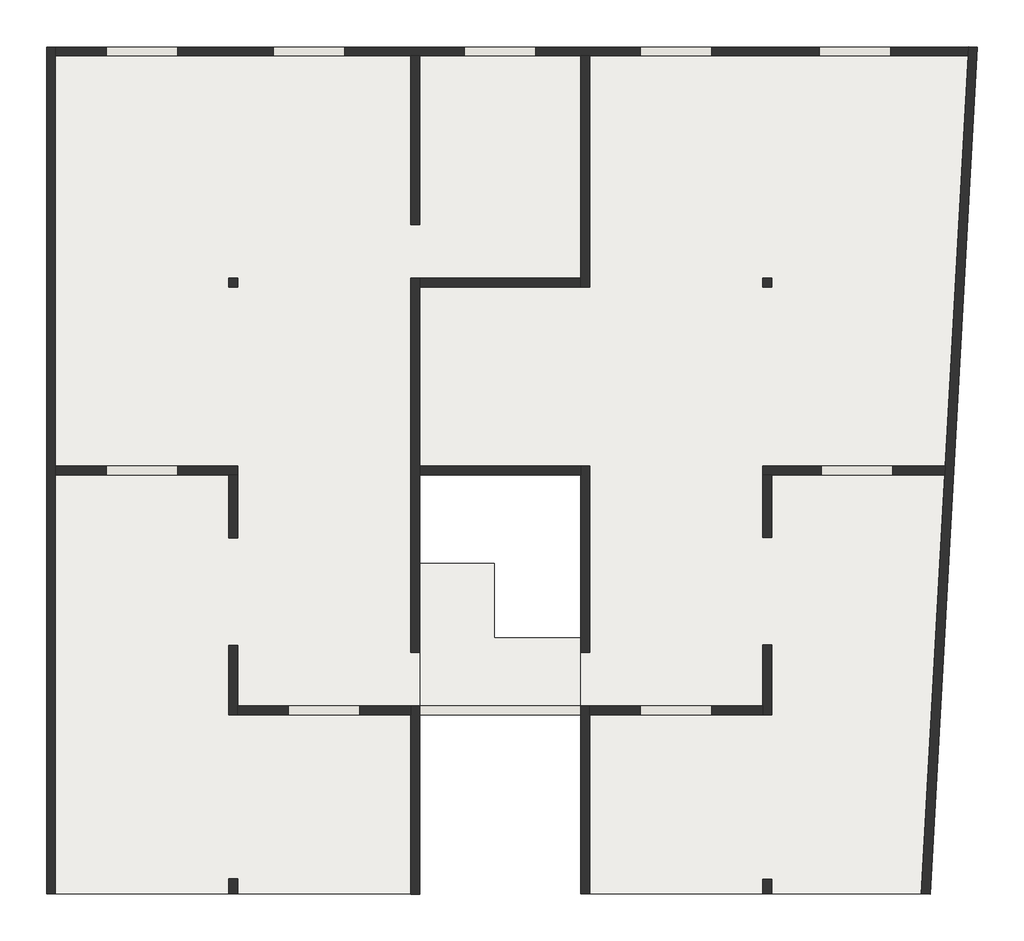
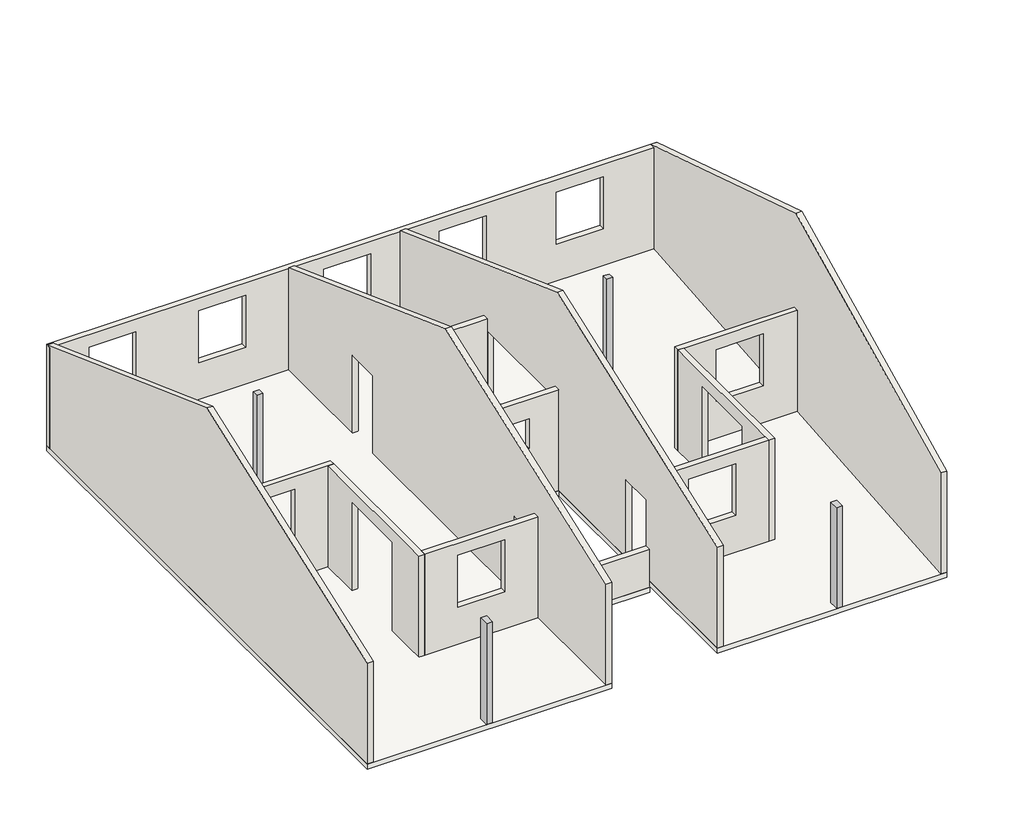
# One storey: 14 walls, 4 columns, 2 slabs.
"""IFC4 building model written with IfcOpenShell, lengths in millimetres."""

from ifc_helpers import new_model, si_unit, frame, origin, place, context, project, spatial, polyline, outline, extrude, faceted_brep, element, save

model = new_model("IFC4")

# Units and contexts
model_context = context("Model", 3, world=origin())
ifc_project = project(units=[si_unit("LENGTHUNIT", "METRE", prefix="MILLI")], contexts=[model_context])

# Site, building, storey
site = spatial("IfcSite", under=ifc_project)
building = spatial("IfcBuilding", under=site)
storey = spatial("IfcBuildingStorey", under=building, Name="3ème niveau", Elevation=2770.0)

# Columns
placement = place(None, origin())
element("IfcColumn", 1, ObjectType="Béton - Rectangulaire - Poteau : 15 x 15", at=placement, inside=storey, context=model_context, shape_type="SweptSolid", body=[
    extrude(outline(polyline([(-4080.0228675, 2391.7111972), (-4080.0228675, 2241.7111972), (-4230.0228675, 2241.7111972), (-4230.0228675, 2391.7111972), (-4080.0228675, 2391.7111972)])), frame((0.0, 0.0, 2770.0), z_axis=(0.0, 0.0, 1.0), x_axis=(1.0, 0.0, 0.0)), (0.0, 0.0, 1.0), 2730.0),
])
element("IfcColumn", 2, ObjectType="Béton - Rectangulaire - Poteau : 15 x 15", at=placement, inside=storey, context=model_context, shape_type="SweptSolid", body=[
    extrude(outline(polyline([(4870.5726427, 2391.7111972), (4870.5726427, 2241.7111972), (4720.5726427, 2241.7111972), (4720.5726427, 2391.7111972), (4870.5726427, 2391.7111972)])), frame((0.0, 0.0, 2770.0), z_axis=(0.0, 0.0, 1.0), x_axis=(1.0, 0.0, 0.0)), (0.0, 0.0, 1.0), 2730.0),
])
element("IfcColumn", 3, ObjectType="Béton - Rectangulaire - Poteau : 15 x 25", at=placement, inside=storey, context=model_context, shape_type="SweptSolid", body=[
    extrude(outline(polyline([(4870.5726427, -7684.0839446), (4870.5726427, -7934.0839446), (4720.5726427, -7934.0839446), (4720.5726427, -7684.0839446), (4870.5726427, -7684.0839446)])), frame((0.0, 0.0, 2770.0), z_axis=(0.0, 0.0, 1.0), x_axis=(1.0, 0.0, 0.0)), (0.0, 0.0, 1.0), 2730.0),
])
element("IfcColumn", 4, ObjectType="Béton - Rectangulaire - Poteau : 15 x 25", at=placement, inside=storey, context=model_context, shape_type="SweptSolid", body=[
    extrude(outline(polyline([(-4080.0228675, -7682.5195269), (-4080.0228675, -7932.5195269), (-4230.0228675, -7932.5195269), (-4230.0228675, -7682.5195269), (-4080.0228675, -7682.5195269)])), frame((0.0, 0.0, 2770.0), z_axis=(0.0, 0.0, 1.0), x_axis=(1.0, 0.0, 0.0)), (0.0, 0.0, 1.0), 2730.0),
])

# Slabs
element("IfcSlab", 5, ObjectType="Générique  140 mm", at=placement, inside=storey, context=model_context, shape_type="Brep", body=[
    faceted_brep([(8319.9771325, 6266.7111972, 2630.0), (7531.5087449, -7931.4125381, 2630.0), (4870.5726427, -7931.4125381, 2630.0), (4720.5726427, -7931.4125381, 2630.0), (1671.5087449, -7931.4125381, 2630.0), (1671.5087449, -911.4125381, 2630.0), (-1030.0228675, -911.4125381, 2630.0), (-1030.0228675, -7933.2888028, 2630.0), (-7280.0228675, -7933.2888028, 2630.0), (-7280.0228675, 6266.7111972, 2630.0), (8319.9771325, 6266.7111972, 2770.0), (-7280.0228675, 6266.7111972, 2770.0), (-7280.0228675, -7933.2888028, 2770.0), (-1030.0228675, -7933.2888028, 2770.0), (-1030.0228675, -911.4125381, 2770.0), (1671.5087449, -911.4125381, 2770.0), (1671.5087449, -7931.4125381, 2770.0), (4720.5726427, -7931.4125381, 2770.0), (4870.5726427, -7931.4125381, 2770.0), (7531.5087449, -7931.4125381, 2770.0)], [[[0, 1, 2, 3, 4, 5, 6, 7, 8, 9]], [[10, 11, 12, 13, 14, 15, 16, 17, 18, 19]], [[1, 0, 10, 19]], [[4, 3, 2, 1, 19, 18, 17, 16]], [[5, 4, 16, 15]], [[6, 5, 15, 14]], [[7, 6, 14, 13]], [[8, 7, 13, 12]], [[9, 8, 12, 11]], [[0, 9, 11, 10]]]),
])
element("IfcSlab", 6, ObjectType="Générique  140 mm", at=placement, inside=storey, context=model_context, shape_type="SweptSolid", body=[
    extrude(outline(polyline([(219.9771325, -2388.2888028), (219.9771325, -3638.4717953), (1671.5087449, -3638.4717953), (1671.5087449, -4933.2888028), (-1030.0228675, -4933.2888028), (-1030.0228675, -2388.2888028), (219.9771325, -2388.2888028)])), frame((0.0, 0.0, 2455.0), z_axis=(0.0, 0.0, 1.0), x_axis=(1.0, 0.0, 0.0)), (0.0, 0.0, 1.0), 140.0),
])

# Walls
element("IfcWall", 7, ObjectType="Générique - 150 mm", at=placement, inside=storey, context=model_context, shape_type="Brep", body=[
    faceted_brep([(-7280.0228675, 6116.7111972, 2770.0), (-1180.0228675, 6116.7111972, 2770.0), (-1030.0228675, 6116.7111972, 2770.0), (1669.9771325, 6116.7111972, 2770.0), (1819.9771325, 6116.7111972, 2770.0), (8311.6467221, 6116.7111972, 2770.0), (8311.6467221, 6116.7111972, 5500.0), (-7280.0228675, 6116.7111972, 5500.0), (-5080.0228675, 6116.7111972, 5170.0), (-5080.0228675, 6116.7111972, 3770.0), (-6280.0228675, 6116.7111972, 3770.0), (-6280.0228675, 6116.7111972, 5170.0), (-2280.0228675, 6116.7111972, 5170.0), (-2280.0228675, 6116.7111972, 3770.0), (-3480.0228675, 6116.7111972, 3770.0), (-3480.0228675, 6116.7111972, 5170.0), (919.9771325, 6116.7111972, 5170.0), (919.9771325, 6116.7111972, 3770.0), (-280.0228675, 6116.7111972, 3770.0), (-280.0228675, 6116.7111972, 5170.0), (3869.9771325, 6116.7111972, 5170.0), (3869.9771325, 6116.7111972, 3770.0), (2669.9771325, 6116.7111972, 3770.0), (2669.9771325, 6116.7111972, 5170.0), (5669.9771325, 6116.7111972, 5170.0), (6869.9771325, 6116.7111972, 5170.0), (6869.9771325, 6116.7111972, 3770.0), (5669.9771325, 6116.7111972, 3770.0), (-7280.0228675, 6266.7111972, 2770.0), (-7280.0228675, 6266.7111972, 5500.0), (8319.9767141, 6266.7111972, 5500.0), (8319.9767141, 6266.7111972, 2770.0), (-5080.0228675, 6266.7111972, 5170.0), (-6280.0228675, 6266.7111972, 5170.0), (-6280.0228675, 6266.7111972, 3770.0), (-5080.0228675, 6266.7111972, 3770.0), (-2280.0228675, 6266.7111972, 5170.0), (-3480.0228675, 6266.7111972, 5170.0), (-3480.0228675, 6266.7111972, 3770.0), (-2280.0228675, 6266.7111972, 3770.0), (919.9771325, 6266.7111972, 5170.0), (-280.0228675, 6266.7111972, 5170.0), (-280.0228675, 6266.7111972, 3770.0), (919.9771325, 6266.7111972, 3770.0), (3869.9771325, 6266.7111972, 5170.0), (2669.9771325, 6266.7111972, 5170.0), (2669.9771325, 6266.7111972, 3770.0), (3869.9771325, 6266.7111972, 3770.0), (5669.9771325, 6266.7111972, 5170.0), (5669.9771325, 6266.7111972, 3770.0), (6869.9771325, 6266.7111972, 3770.0), (6869.9771325, 6266.7111972, 5170.0)], [[[0, 1, 2, 3, 4, 5, 6, 7], [8, 9, 10, 11], [12, 13, 14, 15], [16, 17, 18, 19], [20, 21, 22, 23], [24, 25, 26, 27]], [[28, 29, 30, 31], [32, 33, 34, 35], [36, 37, 38, 39], [40, 41, 42, 43], [44, 45, 46, 47], [48, 49, 50, 51]], [[5, 4, 3, 2, 1, 0, 28, 31]], [[7, 6, 30, 29]], [[6, 5, 31, 30]], [[0, 7, 29, 28]], [[9, 8, 32, 35]], [[10, 9, 35, 34]], [[11, 10, 34, 33]], [[8, 11, 33, 32]], [[13, 12, 36, 39]], [[14, 13, 39, 38]], [[15, 14, 38, 37]], [[12, 15, 37, 36]], [[17, 16, 40, 43]], [[18, 17, 43, 42]], [[19, 18, 42, 41]], [[16, 19, 41, 40]], [[21, 20, 44, 47]], [[22, 21, 47, 46]], [[23, 22, 46, 45]], [[20, 23, 45, 44]], [[49, 48, 24, 27]], [[50, 49, 27, 26]], [[51, 50, 26, 25]], [[48, 51, 25, 24]]]),
])
element("IfcWall", 8, ObjectType="Générique - 150 mm", at=placement, inside=storey, context=model_context, shape_type="Brep", body=[
    faceted_brep([(7381.5081487, -7927.2539495, 2770.0), (7381.5081487, -7927.2539495, 5500.0), (7775.4138813, -834.1067555, 8085.6722835), (8170.2074764, 6275.0283743, 5500.0), (8170.2074764, 6275.0283743, 2770.0), (7779.6243009, -758.2888028, 2770.0), (7771.2943089, -908.2888028, 2770.0), (7531.2773864, -7935.5711266, 2770.0), (8319.9767141, 6266.7111972, 2770.0), (8319.9767141, 6266.7111972, 5500.0), (7925.183119, -842.4239326, 8085.6722835), (7531.2773864, -7935.5711266, 5500.0)], [[[0, 1, 2, 3, 4, 5, 6]], [[7, 8, 9, 10, 11]], [[0, 6, 5, 4, 8, 7]], [[1, 0, 7, 11]], [[2, 1, 11, 10]], [[4, 3, 9, 8]], [[3, 2, 10, 9]]]),
])
element("IfcWall", 9, ObjectType="Générique - 150 mm", at=placement, inside=storey, context=model_context, shape_type="Brep", body=[
    faceted_brep([(7779.6243009, -758.2888028, 2770.0), (4720.5726427, -758.2888028, 2770.0), (4720.5726427, -758.2888028, 5500.0), (7779.6243009, -758.2888028, 5500.0), (5700.5726427, -758.2888028, 5170.0), (5700.5726427, -758.2888028, 3770.0), (6900.5726427, -758.2888028, 3770.0), (6900.5726427, -758.2888028, 5170.0), (7771.2943089, -908.2888028, 2770.0), (7771.2943089, -908.2888028, 5500.0), (4870.5726427, -908.2888028, 5500.0), (4720.5726427, -908.2888028, 5500.0), (4720.5726427, -908.2888028, 2770.0), (4870.5726427, -908.2888028, 2770.0), (5700.5726427, -908.2888028, 5170.0), (6900.5726427, -908.2888028, 5170.0), (6900.5726427, -908.2888028, 3770.0), (5700.5726427, -908.2888028, 3770.0)], [[[0, 1, 2, 3], [4, 5, 6, 7]], [[8, 9, 10, 11, 12, 13], [14, 15, 16, 17]], [[1, 0, 8, 13, 12]], [[3, 2, 11, 10, 9]], [[0, 3, 9, 8]], [[2, 1, 12, 11]], [[5, 4, 14, 17]], [[6, 5, 17, 16]], [[7, 6, 16, 15]], [[4, 7, 15, 14]]]),
])
element("IfcWall", 10, ObjectType="Générique - 150 mm", at=placement, inside=storey, context=model_context, shape_type="Brep", body=[
    faceted_brep([(4720.5726427, -3758.2888028, 5170.0), (4720.5726427, -3758.2888028, 2770.0), (4720.5726427, -4783.2888028, 2770.0), (4720.5726427, -4933.2888028, 2770.0), (4720.5726427, -4933.2888028, 5500.0), (4720.5726427, -4783.2888028, 5500.0), (4720.5726427, -908.2888028, 5500.0), (4720.5726427, -908.2888028, 2770.0), (4720.5726427, -1958.2888028, 2770.0), (4720.5726427, -1958.2888028, 5170.0), (4870.5726427, -4933.2888028, 2770.0), (4870.5726427, -3758.2888028, 2770.0), (4870.5726427, -3758.2888028, 5170.0), (4870.5726427, -1958.2888028, 5170.0), (4870.5726427, -1958.2888028, 2770.0), (4870.5726427, -908.2888028, 2770.0), (4870.5726427, -908.2888028, 5500.0), (4870.5726427, -4933.2888028, 5500.0)], [[[0, 1, 2, 3, 4, 5, 6, 7, 8, 9]], [[10, 11, 12, 13, 14, 15, 16, 17]], [[8, 7, 15, 14]], [[3, 2, 1, 11, 10]], [[6, 5, 4, 17, 16]], [[7, 6, 16, 15]], [[4, 3, 10, 17]], [[14, 13, 9, 8]], [[12, 11, 1, 0]], [[13, 12, 0, 9]]]),
])
element("IfcWall", 11, ObjectType="Générique - 150 mm", at=placement, inside=storey, context=model_context, shape_type="Brep", body=[
    faceted_brep([(4720.5726427, -4783.2888028, 2770.0), (1819.9771325, -4783.2888028, 2770.0), (1819.9771325, -4783.2888028, 4870.0), (1819.9771325, -4783.2888028, 5500.0), (4720.5726427, -4783.2888028, 5500.0), (2669.9771325, -4783.2888028, 5170.0), (2669.9771325, -4783.2888028, 3770.0), (3869.9771325, -4783.2888028, 3770.0), (3869.9771325, -4783.2888028, 5170.0), (4720.5726427, -4933.2888028, 2770.0), (4720.5726427, -4933.2888028, 5500.0), (1819.9771325, -4933.2888028, 5500.0), (1819.9771325, -4933.2888028, 2770.0), (2669.9771325, -4933.2888028, 5170.0), (3869.9771325, -4933.2888028, 5170.0), (3869.9771325, -4933.2888028, 3770.0), (2669.9771325, -4933.2888028, 3770.0)], [[[0, 1, 2, 3, 4], [5, 6, 7, 8]], [[9, 10, 11, 12], [13, 14, 15, 16]], [[1, 0, 9, 12]], [[4, 3, 11, 10]], [[0, 4, 10, 9]], [[3, 2, 1, 12, 11]], [[6, 5, 13, 16]], [[7, 6, 16, 15]], [[8, 7, 15, 14]], [[5, 8, 14, 13]]]),
])
element("IfcWall", 12, ObjectType="Générique - 150 mm", at=placement, inside=storey, context=model_context, shape_type="Brep", body=[
    faceted_brep([(-7280.0228675, -7933.2888028, 2770.0), (-7280.0228675, -7933.2888028, 5500.0779569), (-7280.0228675, -833.2888028, 8088.2483009), (-7280.0228675, 6266.7111972, 5490.0), (-7280.0228675, 6266.7111972, 2770.0), (-7130.0228675, -7933.2888028, 2770.0), (-7130.0228675, -908.2888028, 2770.0), (-7130.0228675, -758.2888028, 2770.0), (-7130.0228675, 6266.7111972, 2770.0), (-7130.0228675, 6266.7111972, 5490.0), (-7130.0228675, -833.2888028, 8088.2483009), (-7130.0228675, -7933.2888028, 5500.0779569)], [[[0, 1, 2, 3, 4]], [[5, 6, 7, 8, 9, 10, 11]], [[0, 4, 8, 7, 6, 5]], [[1, 0, 5, 11]], [[2, 1, 11, 10]], [[3, 2, 10, 9]], [[4, 3, 9, 8]]]),
])
element("IfcWall", 13, ObjectType="Générique - 150 mm", at=placement, inside=storey, context=model_context, shape_type="Brep", body=[
    faceted_brep([(-7130.0228675, -908.2888028, 2770.0), (-4230.0228675, -908.2888028, 2770.0), (-4080.0228675, -908.2888028, 2770.0), (-4080.0228675, -908.2888028, 5500.0), (-4230.0228675, -908.2888028, 5500.0), (-7130.0228675, -908.2888028, 5500.0), (-6280.0228675, -908.2888028, 5170.0), (-5080.0228675, -908.2888028, 5170.0), (-5080.0228675, -908.2888028, 3770.0), (-6280.0228675, -908.2888028, 3770.0), (-7130.0228675, -758.2888028, 2770.0), (-7130.0228675, -758.2888028, 5500.0), (-4080.0228675, -758.2888028, 5500.0), (-4080.0228675, -758.2888028, 2770.0), (-6280.0228675, -758.2888028, 5170.0), (-6280.0228675, -758.2888028, 3770.0), (-5080.0228675, -758.2888028, 3770.0), (-5080.0228675, -758.2888028, 5170.0)], [[[0, 1, 2, 3, 4, 5], [6, 7, 8, 9]], [[10, 11, 12, 13], [14, 15, 16, 17]], [[2, 1, 0, 10, 13]], [[5, 4, 3, 12, 11]], [[0, 5, 11, 10]], [[3, 2, 13, 12]], [[15, 14, 6, 9]], [[16, 15, 9, 8]], [[17, 16, 8, 7]], [[14, 17, 7, 6]]]),
])
element("IfcWall", 14, ObjectType="Générique - 150 mm", at=placement, inside=storey, context=model_context, shape_type="Brep", body=[
    faceted_brep([(-4230.0228675, -908.2888028, 2770.0), (-4230.0228675, -1963.2888028, 2770.0), (-4230.0228675, -1963.2888028, 5170.0), (-4230.0228675, -3763.2888028, 5170.0), (-4230.0228675, -3763.2888028, 2770.0), (-4230.0228675, -4933.2888028, 2770.0), (-4230.0228675, -4933.2888028, 5500.0), (-4230.0228675, -908.2888028, 5500.0), (-4080.0228675, -1963.2888028, 5170.0), (-4080.0228675, -1963.2888028, 2770.0), (-4080.0228675, -908.2888028, 2770.0), (-4080.0228675, -908.2888028, 5500.0), (-4080.0228675, -4783.2888028, 5500.0), (-4080.0228675, -4933.2888028, 5500.0), (-4080.0228675, -4933.2888028, 2770.0), (-4080.0228675, -4783.2888028, 2770.0), (-4080.0228675, -3763.2888028, 2770.0), (-4080.0228675, -3763.2888028, 5170.0)], [[[0, 1, 2, 3, 4, 5, 6, 7]], [[8, 9, 10, 11, 12, 13, 14, 15, 16, 17]], [[10, 9, 1, 0]], [[16, 15, 14, 5, 4]], [[7, 6, 13, 12, 11]], [[0, 7, 11, 10]], [[6, 5, 14, 13]], [[4, 3, 17, 16]], [[2, 1, 9, 8]], [[3, 2, 8, 17]]]),
])
element("IfcWall", 15, ObjectType="Générique - 150 mm", at=placement, inside=storey, context=model_context, shape_type="Brep", body=[
    faceted_brep([(-4080.0228675, -4933.2888028, 2770.0), (-1180.0228675, -4933.2888028, 2770.0), (-1180.0228675, -4933.2888028, 5500.0), (-4080.0228675, -4933.2888028, 5500.0), (-2030.0228675, -4933.2888028, 5170.0), (-2030.0228675, -4933.2888028, 3770.0), (-3230.0228675, -4933.2888028, 3770.0), (-3230.0228675, -4933.2888028, 5170.0), (-4080.0228675, -4783.2888028, 2770.0), (-4080.0228675, -4783.2888028, 5500.0), (-1180.0228675, -4783.2888028, 5500.0), (-1180.0228675, -4783.2888028, 4870.0), (-1180.0228675, -4783.2888028, 2770.0), (-2030.0228675, -4783.2888028, 5170.0), (-3230.0228675, -4783.2888028, 5170.0), (-3230.0228675, -4783.2888028, 3770.0), (-2030.0228675, -4783.2888028, 3770.0)], [[[0, 1, 2, 3], [4, 5, 6, 7]], [[8, 9, 10, 11, 12], [13, 14, 15, 16]], [[1, 0, 8, 12]], [[3, 2, 10, 9]], [[0, 3, 9, 8]], [[2, 1, 12, 11, 10]], [[5, 4, 13, 16]], [[6, 5, 16, 15]], [[7, 6, 15, 14]], [[4, 7, 14, 13]]]),
])
element("IfcWall", 16, ObjectType="Générique - 150 mm", at=placement, inside=storey, context=model_context, shape_type="Brep", body=[
    faceted_brep([(-1030.0228675, -7935.5711266, 2770.0), (-1030.0228675, -4783.2888028, 2770.0), (-1030.0228675, -4783.2888028, 3625.0), (-1030.0228675, -4783.2888028, 4870.0), (-1030.0228675, -3883.2888028, 4870.0), (-1030.0228675, -3883.2888028, 2770.0), (-1030.0228675, -908.2888028, 2770.0), (-1030.0228675, -758.2888028, 2770.0), (-1030.0228675, 2241.7111972, 2770.0), (-1030.0228675, 2391.7111972, 2770.0), (-1030.0228675, 2391.7111972, 4870.0), (-1030.0228675, 3291.7111972, 4870.0), (-1030.0228675, 3291.7111972, 2770.0), (-1030.0228675, 6116.7111972, 2770.0), (-1030.0228675, 6116.7111972, 5527.6579721), (-1030.0228675, -833.2888028, 8090.6300529), (-1030.0228675, -7935.5711266, 5501.627731), (-1180.0228675, -4783.2888028, 4870.0), (-1180.0228675, -4783.2888028, 2770.0), (-1180.0228675, -4933.2888028, 2770.0), (-1180.0228675, -7935.5711266, 2770.0), (-1180.0228675, -7935.5711266, 5501.627731), (-1180.0228675, -833.2888028, 8090.6300529), (-1180.0228675, 6116.7111972, 5527.6579721), (-1180.0228675, 6116.7111972, 2770.0), (-1180.0228675, 3291.7111972, 2770.0), (-1180.0228675, 3291.7111972, 4870.0), (-1180.0228675, 2391.7111972, 4870.0), (-1180.0228675, 2391.7111972, 2770.0), (-1180.0228675, -3883.2888028, 2770.0), (-1180.0228675, -3883.2888028, 4870.0)], [[[0, 1, 2, 3, 4, 5, 6, 7, 8, 9, 10, 11, 12, 13, 14, 15, 16]], [[17, 18, 19, 20, 21, 22, 23, 24, 25, 26, 27, 28, 29, 30]], [[14, 13, 24, 23]], [[25, 24, 13, 12]], [[29, 28, 9, 8, 7, 6, 5]], [[20, 19, 18, 1, 0]], [[15, 14, 23, 22]], [[16, 15, 22, 21]], [[12, 11, 26, 25]], [[10, 9, 28, 27]], [[11, 10, 27, 26]], [[5, 4, 30, 29]], [[3, 2, 1, 18, 17]], [[4, 3, 17, 30]], [[0, 16, 21, 20]]]),
])
element("IfcWall", 17, ObjectType="Générique - 150 mm", at=placement, inside=storey, context=model_context, shape_type="Brep", body=[
    faceted_brep([(1669.9771325, -758.2888028, 5170.0), (1669.9771325, -758.2888028, 2770.0), (1669.9771325, -908.2888028, 2770.0), (1669.9771325, -3883.2888028, 2770.0), (1669.9771325, -3883.2888028, 4870.0), (1669.9771325, -4783.2888028, 4870.0), (1669.9771325, -4783.2888028, 3625.0), (1669.9771325, -4783.2888028, 2770.0), (1669.9771325, -7933.2888028, 2770.0), (1669.9771325, -7933.2888028, 5502.4499364), (1669.9771325, -835.5925915, 8089.7804779), (1669.9771325, 6116.7111972, 5527.6398377), (1669.9771325, 6116.7111972, 2770.0), (1669.9771325, 2391.7111972, 2770.0), (1669.9771325, 2241.7111972, 2770.0), (1669.9771325, 2241.7111972, 5170.0), (1819.9771325, -3883.2888028, 2770.0), (1819.9771325, -758.2888028, 2770.0), (1819.9771325, -758.2888028, 5170.0), (1819.9771325, 2241.7111972, 5170.0), (1819.9771325, 2241.7111972, 2770.0), (1819.9771325, 6116.7111972, 2770.0), (1819.9771325, 6116.7111972, 5527.6398377), (1819.9771325, -835.5925915, 8089.7804779), (1819.9771325, -7933.2888028, 5502.4499364), (1819.9771325, -7933.2888028, 2770.0), (1819.9771325, -4933.2888028, 2770.0), (1819.9771325, -4783.2888028, 2770.0), (1819.9771325, -4783.2888028, 4870.0), (1819.9771325, -3883.2888028, 4870.0)], [[[0, 1, 2, 3, 4, 5, 6, 7, 8, 9, 10, 11, 12, 13, 14, 15]], [[16, 17, 18, 19, 20, 21, 22, 23, 24, 25, 26, 27, 28, 29]], [[8, 7, 27, 26, 25]], [[3, 2, 1, 17, 16]], [[14, 13, 12, 21, 20]], [[12, 11, 22, 21]], [[10, 9, 24, 23]], [[11, 10, 23, 22]], [[16, 29, 4, 3]], [[28, 27, 7, 6, 5]], [[29, 28, 5, 4]], [[20, 19, 15, 14]], [[18, 17, 1, 0]], [[19, 18, 0, 15]], [[9, 8, 25, 24]]]),
])
element("IfcWall", 18, ObjectType="Générique - 150 mm", at=placement, inside=storey, context=model_context, shape_type="Brep", body=[
    faceted_brep([(1669.9771325, -758.2888028, 2770.0), (-1030.0228675, -758.2888028, 2770.0), (-1030.0228675, -758.2888028, 5500.0), (1669.9771325, -758.2888028, 5500.0), (1669.9771325, -758.2888028, 5170.0), (-280.0228675, -758.2888028, 4970.0), (-280.0228675, -758.2888028, 4170.0), (919.9771325, -758.2888028, 4170.0), (919.9771325, -758.2888028, 4970.0), (1669.9771325, -908.2888028, 2770.0), (1669.9771325, -908.2888028, 5500.0), (-1030.0228675, -908.2888028, 5500.0), (-1030.0228675, -908.2888028, 2770.0), (-280.0228675, -908.2888028, 4970.0), (919.9771325, -908.2888028, 4970.0), (919.9771325, -908.2888028, 4170.0), (-280.0228675, -908.2888028, 4170.0)], [[[0, 1, 2, 3, 4], [5, 6, 7, 8]], [[9, 10, 11, 12], [13, 14, 15, 16]], [[1, 0, 9, 12]], [[3, 2, 11, 10]], [[2, 1, 12, 11]], [[0, 4, 3, 10, 9]], [[6, 5, 13, 16]], [[7, 6, 16, 15]], [[8, 7, 15, 14]], [[5, 8, 14, 13]]]),
])
element("IfcWall", 19, ObjectType="Générique - 150 mm", at=placement, inside=storey, context=model_context, shape_type="Brep", body=[
    faceted_brep([(1669.9771325, 2391.7111972, 2770.0), (-1030.0228675, 2391.7111972, 2770.0), (-1030.0228675, 2391.7111972, 4870.0), (-1030.0228675, 2391.7111972, 5500.0), (1669.9771325, 2391.7111972, 5500.0), (1669.9771325, 2241.7111972, 2770.0), (1669.9771325, 2241.7111972, 5170.0), (1669.9771325, 2241.7111972, 5500.0), (-1030.0228675, 2241.7111972, 5500.0), (-1030.0228675, 2241.7111972, 2770.0)], [[[0, 1, 2, 3, 4]], [[5, 6, 7, 8, 9]], [[1, 0, 5, 9]], [[4, 3, 8, 7]], [[3, 2, 1, 9, 8]], [[0, 4, 7, 6, 5]]]),
])
element("IfcWall", 20, ObjectType="Générique - 150 mm", at=placement, inside=storey, context=model_context, shape_type="Brep", body=[
    faceted_brep([(-1030.0228675, -4933.2888028, 2595.0), (1669.9771325, -4933.2888028, 2595.0), (1669.9771325, -4933.2888028, 3625.0), (-1030.0228675, -4933.2888028, 3625.0), (-1030.0228675, -4783.2888028, 2595.0), (-1030.0228675, -4783.2888028, 2770.0), (-1030.0228675, -4783.2888028, 3625.0), (1669.9771325, -4783.2888028, 3625.0), (1669.9771325, -4783.2888028, 2770.0), (1669.9771325, -4783.2888028, 2595.0)], [[[0, 1, 2, 3]], [[4, 5, 6, 7, 8, 9]], [[1, 0, 4, 9]], [[3, 2, 7, 6]], [[0, 3, 6, 5, 4]], [[2, 1, 9, 8, 7]]]),
])

save(model, "model.ifc")
